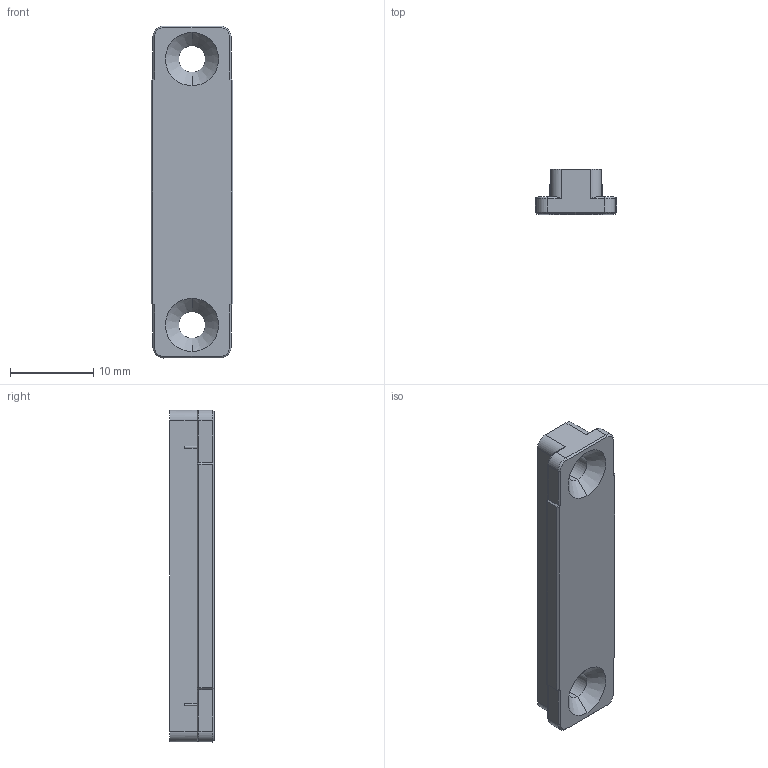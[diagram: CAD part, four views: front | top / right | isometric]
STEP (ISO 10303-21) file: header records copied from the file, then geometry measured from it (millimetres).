
FILE_DESCRIPTION((''),'2;1');
FILE_NAME('69_0027','2014-03-06T',('dsc'),(''),'PRO/ENGINEER BY PARAMETRIC TECHNOLOGY CORPORATION, 2012360','PRO/ENGINEER BY PARAMETRIC TECHNOLOGY CORPORATION, 2012360','');
FILE_SCHEMA(('CONFIG_CONTROL_DESIGN'));
Length unit declared in the file: millimetre
Products named in the file (1): 69_0027
Bounding box: 9.8 x 5.35 x 39.95 mm (x, y, z)
Volume: 1380 mm3; surface area: 1404.9 mm2
Topology: 1 solids, 1 shells, 82 faces, 198 edges, 120 vertices
Faces by surface type: plane 36, cylinder 30, cone 12, torus 4
Entity records: 2452 total; most frequent: CARTESIAN_POINT 476, DIRECTION 410, ORIENTED_EDGE 396, EDGE_CURVE 198, AXIS2_PLACEMENT_3D 142, VECTOR 126, LINE 126, VERTEX_POINT 120
